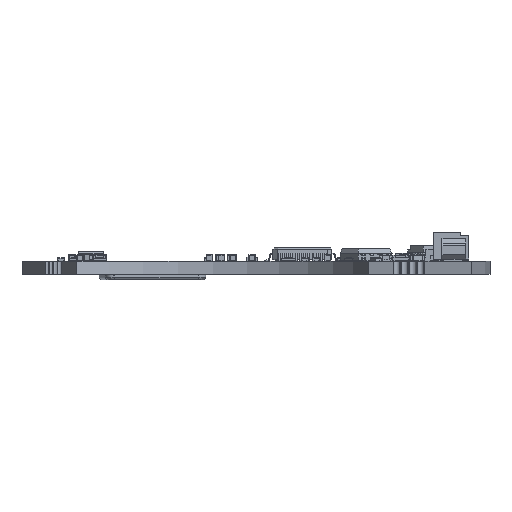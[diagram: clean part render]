
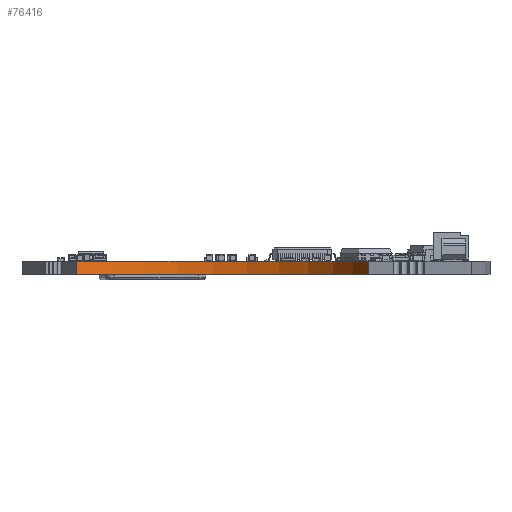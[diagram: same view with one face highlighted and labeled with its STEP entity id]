
A CAD part, front view. The second image highlights one B-rep face of the part: STEP entity #76416.
In plain terms, the highlighted cylindrical face has radius 24 mm (diameter 48 mm), a partial arc.
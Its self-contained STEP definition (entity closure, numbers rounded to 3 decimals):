
#1763 = CIRCLE ( 'NONE', #81263, 24. ) ;
#7543 = CARTESIAN_POINT ( 'NONE',  ( 22.553, -8.208, -1.582 ) ) ;
#8163 = EDGE_CURVE ( 'NONE', #25096, #111518, #1763, .T. ) ;
#10108 = CARTESIAN_POINT ( 'NONE',  ( -12., 20.785, -1.582 ) ) ;
#12741 = CARTESIAN_POINT ( 'NONE',  ( 0., 0., 0. ) ) ;
#15824 = CARTESIAN_POINT ( 'NONE',  ( -12., 20.785, -1.582 ) ) ;
#25096 = VERTEX_POINT ( 'NONE', #90569 ) ;
#26343 = LINE ( 'NONE', #7543, #157465 ) ;
#27263 = ORIENTED_EDGE ( 'NONE', *, *, #8163, .F. ) ;
#33260 = VECTOR ( 'NONE', #70401, 1000. ) ;
#50553 = CIRCLE ( 'NONE', #109484, 24. ) ;
#58916 = CARTESIAN_POINT ( 'NONE',  ( 22.553, -8.208, 0. ) ) ;
#60164 = EDGE_LOOP ( 'NONE', ( #27263, #116507, #130403, #72709 ) ) ;
#62222 = DIRECTION ( 'NONE',  ( 0., 0., 1. ) ) ;
#62852 = FACE_OUTER_BOUND ( 'NONE', #60164, .T. ) ;
#63255 = DIRECTION ( 'NONE',  ( -1., 0., 0. ) ) ;
#66246 = CARTESIAN_POINT ( 'NONE',  ( -12., 20.785, 0. ) ) ;
#66734 = CYLINDRICAL_SURFACE ( 'NONE', #93280, 24. ) ;
#70401 = DIRECTION ( 'NONE',  ( 0., 0., 1. ) ) ;
#72709 = ORIENTED_EDGE ( 'NONE', *, *, #101449, .F. ) ;
#76416 = ADVANCED_FACE ( 'NONE', ( #62852 ), #66734, .F. ) ;
#81263 = AXIS2_PLACEMENT_3D ( 'NONE', #101479, #62222, #63255 ) ;
#90569 = CARTESIAN_POINT ( 'NONE',  ( 22.553, -8.208, -1.582 ) ) ;
#91004 = LINE ( 'NONE', #10108, #33260 ) ;
#93280 = AXIS2_PLACEMENT_3D ( 'NONE', #143376, #155767, #121169 ) ;
#94125 = DIRECTION ( 'NONE',  ( 0., 0., -1. ) ) ;
#98907 = EDGE_CURVE ( 'NONE', #132749, #25096, #26343, .T. ) ;
#101449 = EDGE_CURVE ( 'NONE', #111518, #107167, #91004, .T. ) ;
#101479 = CARTESIAN_POINT ( 'NONE',  ( 0., 0., -1.582 ) ) ;
#107167 = VERTEX_POINT ( 'NONE', #66246 ) ;
#109484 = AXIS2_PLACEMENT_3D ( 'NONE', #12741, #123630, #148416 ) ;
#111518 = VERTEX_POINT ( 'NONE', #15824 ) ;
#116507 = ORIENTED_EDGE ( 'NONE', *, *, #98907, .F. ) ;
#121169 = DIRECTION ( 'NONE',  ( -1., 0., 0. ) ) ;
#123630 = DIRECTION ( 'NONE',  ( 0., 0., -1. ) ) ;
#130403 = ORIENTED_EDGE ( 'NONE', *, *, #148266, .F. ) ;
#132749 = VERTEX_POINT ( 'NONE', #58916 ) ;
#143376 = CARTESIAN_POINT ( 'NONE',  ( 0., 0., -1.582 ) ) ;
#148266 = EDGE_CURVE ( 'NONE', #107167, #132749, #50553, .T. ) ;
#148416 = DIRECTION ( 'NONE',  ( -1., 0., 0. ) ) ;
#155767 = DIRECTION ( 'NONE',  ( 0., 0., -1. ) ) ;
#157465 = VECTOR ( 'NONE', #94125, 1000. ) ;
